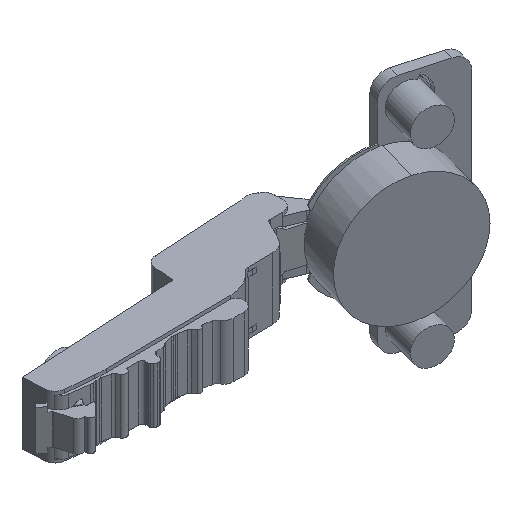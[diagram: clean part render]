
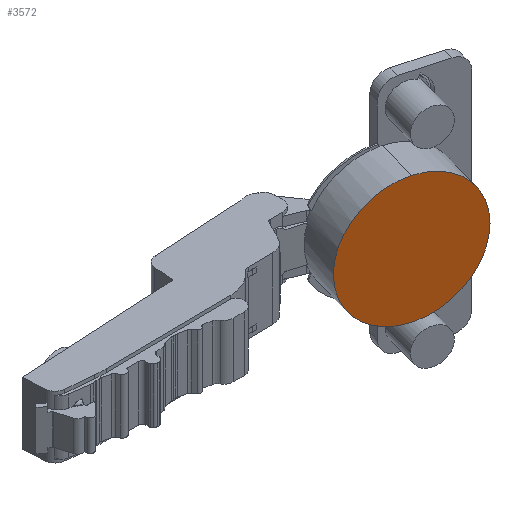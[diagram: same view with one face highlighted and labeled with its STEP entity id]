
A CAD part, isometric view. The second image highlights one B-rep face of the part: STEP entity #3572.
In plain terms, the highlighted planar face has unit normal (-0.267, -0.964, 0).
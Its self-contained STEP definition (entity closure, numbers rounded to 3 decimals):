
#5 = CIRCLE ( 'NONE', #11829, 17.4 ) ;
#1012 = DIRECTION ( 'NONE',  ( 0.964, -0.267, 0. ) ) ;
#1598 = ORIENTED_EDGE ( 'NONE', *, *, #6836, .T. ) ;
#1761 = CARTESIAN_POINT ( 'NONE',  ( 5.194, -20.163, -7.7 ) ) ;
#1903 = CARTESIAN_POINT ( 'NONE',  ( -5.374, -17.232, 17.4 ) ) ;
#1919 = CARTESIAN_POINT ( 'NONE',  ( -5.374, -17.232, 0. ) ) ;
#2148 = DIRECTION ( 'NONE',  ( 0.964, -0.267, 0. ) ) ;
#3550 = DIRECTION ( 'NONE',  ( -0.267, -0.964, 0. ) ) ;
#3572 = ADVANCED_FACE ( 'NONE', ( #13163 ), #6131, .F. ) ;
#3942 = CIRCLE ( 'NONE', #5470, 17.4 ) ;
#4906 = DIRECTION ( 'NONE',  ( 0., 0., 1. ) ) ;
#4972 = DIRECTION ( 'NONE',  ( 0.267, 0.964, 0. ) ) ;
#5470 = AXIS2_PLACEMENT_3D ( 'NONE', #1919, #11345, #1012 ) ;
#6131 = PLANE ( 'NONE',  #8482 ) ;
#6248 = VERTEX_POINT ( 'NONE', #9621 ) ;
#6836 = EDGE_CURVE ( 'NONE', #7253, #6248, #3942, .T. ) ;
#7068 = EDGE_LOOP ( 'NONE', ( #1598, #10282 ) ) ;
#7253 = VERTEX_POINT ( 'NONE', #1903 ) ;
#8176 = EDGE_CURVE ( 'NONE', #6248, #7253, #5, .T. ) ;
#8482 = AXIS2_PLACEMENT_3D ( 'NONE', #1761, #4972, #4906 ) ;
#9621 = CARTESIAN_POINT ( 'NONE',  ( -5.374, -17.232, -17.4 ) ) ;
#10282 = ORIENTED_EDGE ( 'NONE', *, *, #8176, .T. ) ;
#11345 = DIRECTION ( 'NONE',  ( -0.267, -0.964, 0. ) ) ;
#11829 = AXIS2_PLACEMENT_3D ( 'NONE', #12520, #3550, #2148 ) ;
#12520 = CARTESIAN_POINT ( 'NONE',  ( -5.374, -17.232, 0. ) ) ;
#13163 = FACE_OUTER_BOUND ( 'NONE', #7068, .T. ) ;
